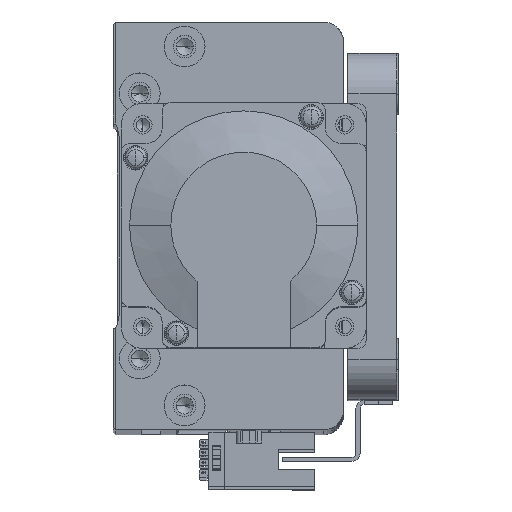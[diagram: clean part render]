
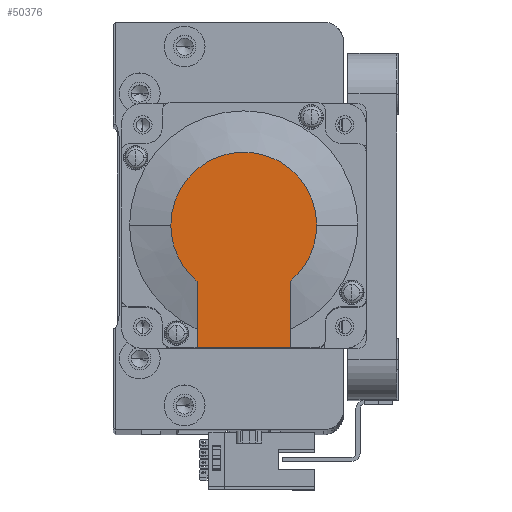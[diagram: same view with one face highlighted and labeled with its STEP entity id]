
A CAD part, top view. The second image highlights one B-rep face of the part: STEP entity #50376.
In plain terms, the highlighted planar face has unit normal (0, 0, 1) as drawn and (-1, 0, 0) by its records, which use the part's own axes.
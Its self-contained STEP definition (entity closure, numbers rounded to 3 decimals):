
#313 = VERTEX_POINT ( 'NONE', #18988 ) ;
#1198 = DIRECTION ( 'NONE',  ( 0., -1., 0. ) ) ;
#1733 = DIRECTION ( 'NONE',  ( 0., 0., -1. ) ) ;
#2047 = CARTESIAN_POINT ( 'NONE',  ( -118.5, -8.941, -11.45 ) ) ;
#3679 = VERTEX_POINT ( 'NONE', #26698 ) ;
#4642 = LINE ( 'NONE', #47407, #46605 ) ;
#6267 = DIRECTION ( 'NONE',  ( 0., -1., 0. ) ) ;
#6584 = DIRECTION ( 'NONE',  ( -1., 0., 0. ) ) ;
#6611 = ORIENTED_EDGE ( 'NONE', *, *, #46039, .T. ) ;
#7095 = CARTESIAN_POINT ( 'NONE',  ( -118.5, 0., 0. ) ) ;
#8127 = ORIENTED_EDGE ( 'NONE', *, *, #38547, .F. ) ;
#9396 = VECTOR ( 'NONE', #6267, 1000. ) ;
#10985 = CARTESIAN_POINT ( 'NONE',  ( -118.5, 30., 25. ) ) ;
#11297 = DIRECTION ( 'NONE',  ( 0., 0., -1. ) ) ;
#12799 = LINE ( 'NONE', #10985, #35125 ) ;
#13867 = EDGE_LOOP ( 'NONE', ( #48786, #23146, #6611, #46984, #51360, #8127 ) ) ;
#14619 = VERTEX_POINT ( 'NONE', #47542 ) ;
#15458 = AXIS2_PLACEMENT_3D ( 'NONE', #7095, #36458, #11297 ) ;
#18980 = CIRCLE ( 'NONE', #15458, 17.881 ) ;
#18988 = CARTESIAN_POINT ( 'NONE',  ( -118.5, 30., -11.45 ) ) ;
#20270 = VERTEX_POINT ( 'NONE', #41227 ) ;
#20541 = CARTESIAN_POINT ( 'NONE',  ( -118.5, -8.941, 0. ) ) ;
#21821 = LINE ( 'NONE', #2047, #9396 ) ;
#23146 = ORIENTED_EDGE ( 'NONE', *, *, #25848, .T. ) ;
#24252 = CARTESIAN_POINT ( 'NONE',  ( -118.5, 0., -17.881 ) ) ;
#24770 = DIRECTION ( 'NONE',  ( 0., 0., 1. ) ) ;
#25848 = EDGE_CURVE ( 'NONE', #14619, #26908, #44670, .T. ) ;
#26698 = CARTESIAN_POINT ( 'NONE',  ( -118.5, 13.735, 11.45 ) ) ;
#26811 = DIRECTION ( 'NONE',  ( -1., 0., 0. ) ) ;
#26908 = VERTEX_POINT ( 'NONE', #24252 ) ;
#28615 = VERTEX_POINT ( 'NONE', #45916 ) ;
#29802 = AXIS2_PLACEMENT_3D ( 'NONE', #20541, #49876, #24770 ) ;
#31410 = AXIS2_PLACEMENT_3D ( 'NONE', #31614, #6584, #35958 ) ;
#31614 = CARTESIAN_POINT ( 'NONE',  ( -118.5, 0., 0. ) ) ;
#32795 = CIRCLE ( 'NONE', #49053, 17.881 ) ;
#35125 = VECTOR ( 'NONE', #41810, 1000. ) ;
#35318 = EDGE_CURVE ( 'NONE', #313, #14619, #21821, .T. ) ;
#35958 = DIRECTION ( 'NONE',  ( 0., 0., -1. ) ) ;
#36389 = EDGE_CURVE ( 'NONE', #28615, #3679, #32795, .T. ) ;
#36458 = DIRECTION ( 'NONE',  ( -1., 0., 0. ) ) ;
#38547 = EDGE_CURVE ( 'NONE', #313, #20270, #12799, .T. ) ;
#41227 = CARTESIAN_POINT ( 'NONE',  ( -118.5, 30., 11.45 ) ) ;
#41810 = DIRECTION ( 'NONE',  ( 0., 0., 1. ) ) ;
#41946 = FACE_OUTER_BOUND ( 'NONE', #13867, .T. ) ;
#44670 = CIRCLE ( 'NONE', #31410, 17.881 ) ;
#45916 = CARTESIAN_POINT ( 'NONE',  ( -118.5, 0., 17.881 ) ) ;
#46039 = EDGE_CURVE ( 'NONE', #26908, #28615, #18980, .T. ) ;
#46605 = VECTOR ( 'NONE', #1198, 1000. ) ;
#46984 = ORIENTED_EDGE ( 'NONE', *, *, #36389, .T. ) ;
#47407 = CARTESIAN_POINT ( 'NONE',  ( -118.5, 0., 11.45 ) ) ;
#47542 = CARTESIAN_POINT ( 'NONE',  ( -118.5, 13.735, -11.45 ) ) ;
#47930 = EDGE_CURVE ( 'NONE', #20270, #3679, #4642, .T. ) ;
#48786 = ORIENTED_EDGE ( 'NONE', *, *, #35318, .T. ) ;
#49053 = AXIS2_PLACEMENT_3D ( 'NONE', #51959, #26811, #1733 ) ;
#49686 = PLANE ( 'NONE',  #29802 ) ;
#49876 = DIRECTION ( 'NONE',  ( -1., 0., 0. ) ) ;
#50376 = ADVANCED_FACE ( 'NONE', ( #41946 ), #49686, .T. ) ;
#51360 = ORIENTED_EDGE ( 'NONE', *, *, #47930, .F. ) ;
#51959 = CARTESIAN_POINT ( 'NONE',  ( -118.5, 0., 0. ) ) ;
